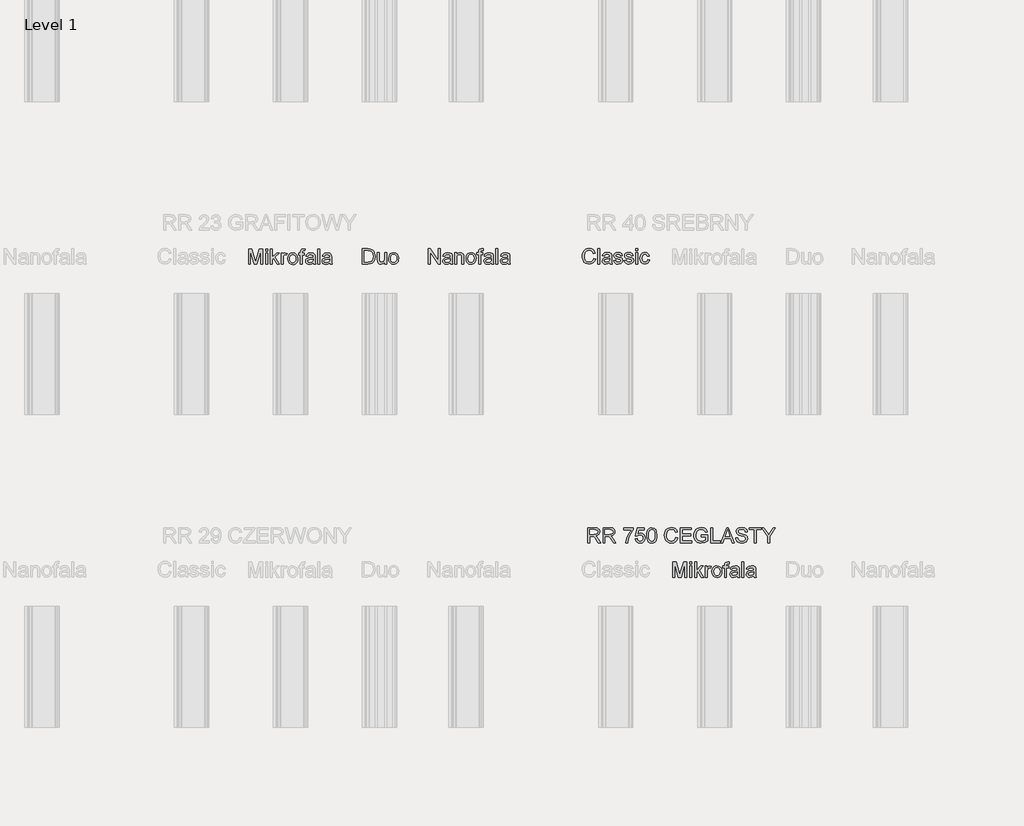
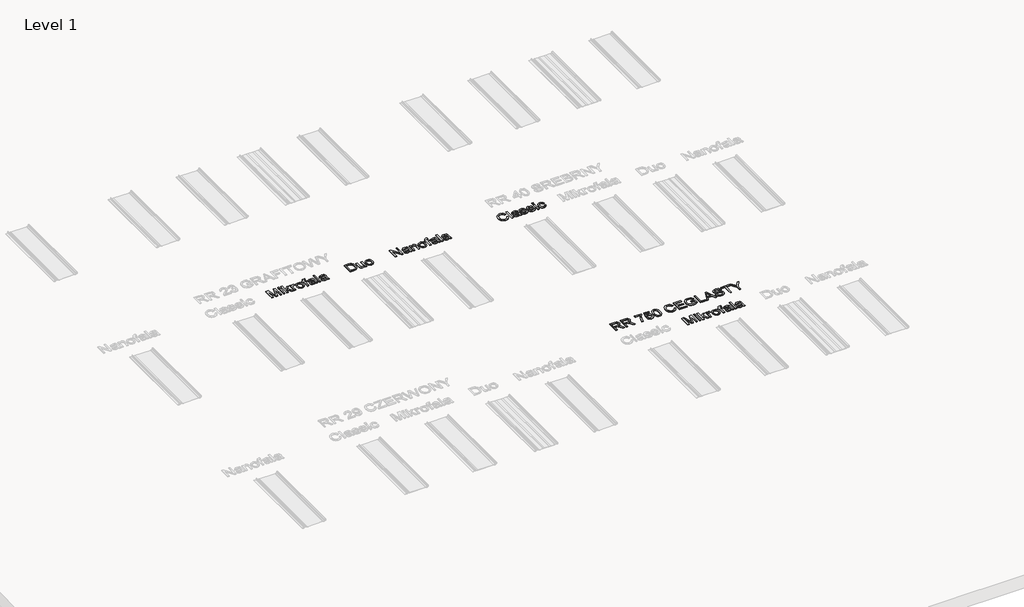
# One storey, part 15 of 24: 6 proxies.
"""IFC4 building model written with IfcOpenShell, lengths in millimetres."""

from ifc_helpers import new_model, si_unit, frame, origin, place, context, project, spatial, polyline, outline, extrude, element, save

model = new_model("IFC4")

# Units and contexts
model_context = context("Model", 3, world=origin())
ifc_project = project(units=[si_unit("LENGTHUNIT", "METRE", prefix="MILLI")], contexts=[model_context])

# Site, building, storey
site = spatial("IfcSite", under=ifc_project)
building = spatial("IfcBuilding", under=site)
storey = spatial("IfcBuildingStorey", under=building, Name="Level 1", Elevation=0.0)

# Proxies
placement = place(None, origin())
element("IfcBuildingElementProxy", 1, Name="150", ObjectType="150", at=placement, inside=storey, context=model_context, shape_type="SweptSolid", body=[
    extrude(outline(polyline([(-3695.6654959, -1975.281387), (-3695.6654959, -1824.5969218), (-3663.3654568, -1824.5969218), (-3632.4633692, -1930.8044538), (-3626.2093753, -1952.9877381), (-3619.4771347, -1928.9650438), (-3589.1636583, -1824.5969218), (-3556.7532546, -1824.5969218), (-3556.7532546, -1975.281387), (-3575.5888127, -1975.281387), (-3575.5888127, -1843.4324799), (-3613.44387, -1975.281387), (-3638.9380923, -1975.281387), (-3676.8299378, -1843.4324799), (-3676.8299378, -1975.281387), (-3695.6654959, -1975.281387)])), frame((0.0, 0.0, 600.0), z_axis=(0.0, 0.0, 1.0), x_axis=(1.0, 0.0, 0.0)), (0.0, 0.0, 1.0), 10.0),
    extrude(outline(polyline([(-3526.1454726, -1843.4324799), (-3526.1454726, -1824.5969218), (-3507.3099144, -1824.5969218), (-3507.3099144, -1843.4324799), (-3526.1454726, -1843.4324799)])), frame((0.0, 0.0, 600.0), z_axis=(0.0, 0.0, 1.0), x_axis=(1.0, 0.0, 0.0)), (0.0, 0.0, 1.0), 10.0),
    extrude(outline(polyline([(-3526.1454726, -1975.281387), (-3526.1454726, -1864.6224829), (-3507.3099144, -1864.6224829), (-3507.3099144, -1975.281387), (-3526.1454726, -1975.281387)])), frame((0.0, 0.0, 600.0), z_axis=(0.0, 0.0, 1.0), x_axis=(1.0, 0.0, 0.0)), (0.0, 0.0, 1.0), 10.0),
    extrude(outline(polyline([(-3479.0565772, -1975.281387), (-3479.0565772, -1824.5969218), (-3460.221019, -1824.5969218), (-3460.221019, -1905.5677489), (-3417.988166, -1864.6224829), (-3391.9421207, -1864.6224829), (-3434.7267968, -1906.0827837), (-3389.587676, -1975.281387), (-3411.5870193, -1975.281387), (-3448.228066, -1919.1793827), (-3460.221019, -1930.841242), (-3460.221019, -1975.281387), (-3479.0565772, -1975.281387)])), frame((0.0, 0.0, 600.0), z_axis=(0.0, 0.0, 1.0), x_axis=(1.0, 0.0, 0.0)), (0.0, 0.0, 1.0), 10.0),
    extrude(outline(polyline([(-3373.1065626, -1975.281387), (-3373.1065626, -1864.6224829), (-3356.6254492, -1864.6224829), (-3356.6254492, -1880.9932316), (-3344.9268017, -1865.9100698), (-3333.1545779, -1862.2680381), (-3314.2454433, -1868.0805736), (-3320.5362255, -1884.9663572), (-3333.7799773, -1881.1035962), (-3344.4301611, -1884.8192044), (-3351.2175839, -1895.1199003), (-3354.2710044, -1917.1192436), (-3354.2710044, -1975.281387), (-3373.1065626, -1975.281387)])), frame((0.0, 0.0, 600.0), z_axis=(0.0, 0.0, 1.0), x_axis=(1.0, 0.0, 0.0)), (0.0, 0.0, 1.0), 10.0),
    extrude(outline(polyline([(-3307.182109, -1919.9519349), (-3303.1078159, -1893.2712932), (-3290.8849367, -1874.5185085), (-3275.7833808, -1865.3306557), (-3257.7019807, -1862.2680381), (-3237.9145279, -1865.9974418), (-3222.1093977, -1877.185653), (-3211.748921, -1894.9497548), (-3208.2954287, -1918.4068306), (-3209.822139, -1937.4355268), (-3214.4022699, -1951.9208803), (-3221.902464, -1962.7688007), (-3232.1893643, -1970.8851972), (-3244.4076451, -1975.9481731), (-3257.7019807, -1977.6358318), (-3277.7285568, -1973.9202236), (-3293.5152929, -1962.7733992), (-3303.765405, -1944.6368168), (-3307.182109, -1919.9519349)]), holes=[polyline([(-3288.3465509, -1919.9151467), (-3286.1668501, -1936.9618787), (-3279.6277476, -1949.1065831), (-3269.7869042, -1956.376851), (-3257.7019807, -1958.8002736), (-3245.6722394, -1956.3630554), (-3235.8497902, -1949.0514008), (-3229.3106877, -1936.745748), (-3227.1309869, -1919.3265355), (-3229.3244833, -1902.7764443), (-3235.9049725, -1890.7972868), (-3245.7412173, -1883.5270189), (-3257.7019807, -1881.1035962), (-3269.7869042, -1883.5178218), (-3279.6277476, -1890.7604986), (-3286.1668501, -1902.8776118), (-3288.3465509, -1919.9151467)])]), frame((0.0, 0.0, 600.0), z_axis=(0.0, 0.0, 1.0), x_axis=(1.0, 0.0, 0.0)), (0.0, 0.0, 1.0), 10.0),
    extrude(outline(polyline([(-3182.3965363, -1975.281387), (-3182.3965363, -1883.458041), (-3198.8776497, -1883.458041), (-3198.8776497, -1864.6224829), (-3182.3965363, -1864.6224829), (-3182.3965363, -1853.4756584), (-3180.4099735, -1837.7670972), (-3170.7714652, -1826.5466964), (-3151.7887543, -1822.242477), (-3134.6086651, -1824.3026162), (-3137.3677801, -1841.960952), (-3148.2202989, -1841.0780352), (-3160.0844933, -1844.2050321), (-3163.5609781, -1855.8668914), (-3163.5609781, -1864.6224829), (-3142.3709752, -1864.6224829), (-3142.3709752, -1883.458041), (-3163.5609781, -1883.458041), (-3163.5609781, -1975.281387), (-3182.3965363, -1975.281387)])), frame((0.0, 0.0, 600.0), z_axis=(0.0, 0.0, 1.0), x_axis=(1.0, 0.0, 0.0)), (0.0, 0.0, 1.0), 10.0),
    extrude(outline(polyline([(-3055.2565187, -1961.1547184), (-3073.5218598, -1973.9202236), (-3093.7001872, -1977.6358318), (-3109.4409381, -1975.4009487), (-3121.0522136, -1968.6962993), (-3128.2121169, -1958.5151651), (-3130.5987514, -1945.8508274), (-3126.9935078, -1930.9516066), (-3117.5205464, -1920.1358759), (-3104.3319769, -1913.9554584), (-3088.0348045, -1911.1227671), (-3055.3668833, -1904.6480439), (-3055.2565187, -1900.4541892), (-3056.5533028, -1892.0480856), (-3060.4436549, -1886.5482498), (-3069.1440641, -1882.4647596), (-3081.2657758, -1881.1035962), (-3100.3220632, -1884.7272339), (-3109.4087484, -1897.5847096), (-3128.2443066, -1895.2302649), (-3120.0957204, -1876.8361651), (-3103.6881834, -1866.0572226), (-3078.8377546, -1862.2680381), (-3056.0106768, -1865.6157643), (-3043.1164129, -1874.0218678), (-3037.3406656, -1886.8057672), (-3036.4209606, -1903.2868806), (-3036.4209606, -1926.7209636), (-3035.4644674, -1959.4440671), (-3031.7120711, -1975.281387), (-3050.5476292, -1975.281387), (-3055.2565187, -1961.1547184)]), holes=[polyline([(-3055.2565187, -1923.4836021), (-3085.6435715, -1929.2593494), (-3101.8487734, -1932.31277), (-3109.1880192, -1937.2791769), (-3111.7631932, -1944.5264522), (-3106.1529928, -1954.7167835), (-3089.6902735, -1958.8002736), (-3070.6339861, -1954.2937192), (-3058.3467275, -1943.386018), (-3055.3668833, -1928.817891), (-3055.2565187, -1923.4836021)])]), frame((0.0, 0.0, 600.0), z_axis=(0.0, 0.0, 1.0), x_axis=(1.0, 0.0, 0.0)), (0.0, 0.0, 1.0), 10.0),
    extrude(outline(polyline([(-3010.5220681, -1975.281387), (-3010.5220681, -1824.5969218), (-2991.68651, -1824.5969218), (-2991.68651, -1975.281387), (-3010.5220681, -1975.281387)])), frame((0.0, 0.0, 600.0), z_axis=(0.0, 0.0, 1.0), x_axis=(1.0, 0.0, 0.0)), (0.0, 0.0, 1.0), 10.0),
    extrude(outline(polyline([(-2892.7998297, -1961.1547184), (-2911.0651707, -1973.9202236), (-2931.2434982, -1977.6358318), (-2946.984249, -1975.4009487), (-2958.5955245, -1968.6962993), (-2965.7554278, -1958.5151651), (-2968.1420623, -1945.8508274), (-2964.5368187, -1930.9516066), (-2955.0638574, -1920.1358759), (-2941.8752878, -1913.9554584), (-2925.5781154, -1911.1227671), (-2892.9101943, -1904.6480439), (-2892.7998297, -1900.4541892), (-2894.0966137, -1892.0480856), (-2897.9869658, -1886.5482498), (-2906.687375, -1882.4647596), (-2918.8090867, -1881.1035962), (-2937.8653741, -1884.7272339), (-2946.9520594, -1897.5847096), (-2965.7876175, -1895.2302649), (-2957.6390313, -1876.8361651), (-2941.2314943, -1866.0572226), (-2916.3810656, -1862.2680381), (-2893.5539878, -1865.6157643), (-2880.6597238, -1874.0218678), (-2874.8839765, -1886.8057672), (-2873.9642715, -1903.2868806), (-2873.9642715, -1926.7209636), (-2873.0077783, -1959.4440671), (-2869.255382, -1975.281387), (-2888.0909401, -1975.281387), (-2892.7998297, -1961.1547184)]), holes=[polyline([(-2892.7998297, -1923.4836021), (-2923.1868825, -1929.2593494), (-2939.3920844, -1932.31277), (-2946.7313302, -1937.2791769), (-2949.3065041, -1944.5264522), (-2943.6963037, -1954.7167835), (-2927.2335844, -1958.8002736), (-2908.1772971, -1954.2937192), (-2895.8900384, -1943.386018), (-2892.9101943, -1928.817891), (-2892.7998297, -1923.4836021)])]), frame((0.0, 0.0, 600.0), z_axis=(0.0, 0.0, 1.0), x_axis=(1.0, 0.0, 0.0)), (0.0, 0.0, 1.0), 10.0),
])
element("IfcBuildingElementProxy", 2, Name="150", ObjectType="150", at=placement, inside=storey, context=model_context, shape_type="SweptSolid", body=[
    extrude(outline(polyline([(-2567.5807075, -1972.1592468), (-2567.5807075, -1821.4747816), (-2515.5989816, -1821.4747816), (-2488.7068077, -1823.6452853), (-2466.5603116, -1834.4242278), (-2456.1400541, -1845.902146), (-2448.7180349, -1860.1759675), (-2444.2758598, -1876.9697805), (-2442.7951347, -1896.0076738), (-2446.8050485, -1926.4131207), (-2457.1057443, -1948.3572817), (-2470.864531, -1962.0240978), (-2488.8723546, -1969.5840728), (-2513.097384, -1972.1592468), (-2567.5807075, -1972.1592468)]), holes=[polyline([(-2548.7451493, -1953.3236886), (-2515.4150406, -1953.3236886), (-2491.1716171, -1950.6013619), (-2477.1921013, -1942.9126282), (-2465.7325771, -1924.2058287), (-2461.6306929, -1895.7133682), (-2463.6402483, -1875.1855529), (-2469.6689145, -1860.0288147), (-2478.5762573, -1849.6177542), (-2489.2218425, -1843.3269721), (-2515.9300754, -1840.3103397), (-2548.7451493, -1840.3103397), (-2548.7451493, -1953.3236886)])]), frame((0.0, 0.0, 600.0), z_axis=(0.0, 0.0, 1.0), x_axis=(1.0, 0.0, 0.0)), (0.0, 0.0, 1.0), 10.0),
    extrude(outline(polyline([(-2348.617344, -1972.1592468), (-2348.617344, -1953.1397476), (-2363.369412, -1969.1702056), (-2382.6096403, -1974.5136916), (-2400.3231584, -1970.7612952), (-2412.5368406, -1961.3435161), (-2418.1470411, -1947.4743649), (-2419.250687, -1929.9631819), (-2419.250687, -1861.5003426), (-2400.4151289, -1861.5003426), (-2400.4151289, -1921.0972259), (-2399.2746947, -1940.300666), (-2391.8250843, -1951.5762492), (-2377.7903862, -1955.6781334), (-2362.0634309, -1951.4842787), (-2351.6707645, -1940.0615427), (-2348.617344, -1919.0738749), (-2348.617344, -1861.5003426), (-2329.7817858, -1861.5003426), (-2329.7817858, -1972.1592468), (-2348.617344, -1972.1592468)])), frame((0.0, 0.0, 600.0), z_axis=(0.0, 0.0, 1.0), x_axis=(1.0, 0.0, 0.0)), (0.0, 0.0, 1.0), 10.0),
    extrude(outline(polyline([(-2308.5917829, -1916.8297947), (-2304.5174898, -1890.149153), (-2292.2946105, -1871.3963683), (-2277.1930546, -1862.2085155), (-2259.1116545, -1859.1458979), (-2239.3242017, -1862.8753016), (-2223.5190715, -1874.0635128), (-2213.1585948, -1891.8276146), (-2209.7051026, -1915.2846903), (-2211.2318129, -1934.3133865), (-2215.8119437, -1948.7987401), (-2223.3121379, -1959.6466604), (-2233.5990382, -1967.7630569), (-2245.8173189, -1972.8260329), (-2259.1116545, -1974.5136916), (-2279.1382307, -1970.7980834), (-2294.9249668, -1959.651259), (-2305.1750789, -1941.5146766), (-2308.5917829, -1916.8297947)]), holes=[polyline([(-2289.7562247, -1916.7930065), (-2287.5765239, -1933.8397385), (-2281.0374215, -1945.9844428), (-2271.1965781, -1953.2547108), (-2259.1116545, -1955.6781334), (-2247.0819133, -1953.2409152), (-2237.259464, -1945.9292605), (-2230.7203616, -1933.6236078), (-2228.5406607, -1916.2043953), (-2230.7341571, -1899.6543041), (-2237.3146463, -1887.6751466), (-2247.1508912, -1880.4048787), (-2259.1116545, -1877.981456), (-2271.1965781, -1880.3956816), (-2281.0374215, -1887.6383584), (-2287.5765239, -1899.7554716), (-2289.7562247, -1916.7930065)])]), frame((0.0, 0.0, 600.0), z_axis=(0.0, 0.0, 1.0), x_axis=(1.0, 0.0, 0.0)), (0.0, 0.0, 1.0), 10.0),
])
element("IfcBuildingElementProxy", 3, Name="150", ObjectType="150", at=placement, inside=storey, context=model_context, shape_type="SweptSolid", body=[
    extrude(outline(polyline([(-279.0085992, -1917.1818641), (-260.1730411, -1922.0379064), (-268.8642532, -1943.986666), (-282.5034782, -1960.0217224), (-300.4193314, -1969.8303761), (-321.9404281, -1973.0999274), (-343.7880201, -1970.6259209), (-361.1382547, -1963.2039017), (-374.4371888, -1951.091387), (-384.1308794, -1934.5458943), (-390.049181, -1915.0941338), (-392.0219482, -1894.2628158), (-389.7916636, -1872.2910636), (-383.1008098, -1853.3175497), (-372.2988747, -1837.9446809), (-357.7353462, -1826.7748638), (-340.4632865, -1819.9736454), (-321.5357579, -1817.7065726), (-300.8837824, -1820.6404315), (-283.8094593, -1829.4420082), (-270.8462175, -1843.5686769), (-262.5274859, -1862.4778114), (-281.363044, -1866.9659718), (-287.8929494, -1853.2301778), (-296.8140878, -1843.8078002), (-308.2368238, -1838.3585481), (-322.2715219, -1836.5421308), (-338.4491326, -1838.5562847), (-351.7388697, -1844.5987464), (-361.8234349, -1854.0349196), (-368.38553, -1866.2302078), (-373.18639, -1894.2260276), (-371.7654458, -1911.626846), (-367.5026132, -1926.6732196), (-360.2369438, -1938.7903328), (-349.8074892, -1947.40337), (-337.3040999, -1952.5491194), (-323.8166263, -1954.2643692), (-308.0942695, -1951.9283185), (-294.9930719, -1944.9201665), (-285.1016448, -1933.3134896), (-279.0085992, -1917.1818641)])), frame((0.0, 0.0, 600.0), z_axis=(0.0, 0.0, 1.0), x_axis=(1.0, 0.0, 0.0)), (0.0, 0.0, 1.0), 10.0),
    extrude(outline(polyline([(-236.6285934, -1970.7454826), (-236.6285934, -1820.0610174), (-217.7930352, -1820.0610174), (-217.7930352, -1970.7454826), (-236.6285934, -1970.7454826)])), frame((0.0, 0.0, 600.0), z_axis=(0.0, 0.0, 1.0), x_axis=(1.0, 0.0, 0.0)), (0.0, 0.0, 1.0), 10.0),
    extrude(outline(polyline([(-118.9063549, -1956.618814), (-137.171696, -1969.3843192), (-157.3500234, -1973.0999274), (-173.0907743, -1970.8650442), (-184.7020498, -1964.1603949), (-191.8619531, -1953.9792607), (-194.2485875, -1941.314923), (-190.643344, -1926.4157022), (-181.1703826, -1915.5999715), (-167.9818131, -1909.419554), (-151.6846407, -1906.5868626), (-119.0167195, -1900.1121395), (-118.9063549, -1895.9182848), (-120.203139, -1887.5121812), (-124.0934911, -1882.0123454), (-132.7939003, -1877.9288552), (-144.915612, -1876.5676918), (-163.9718993, -1880.1913295), (-173.0585846, -1893.0488052), (-191.8941428, -1890.6943604), (-183.7455566, -1872.3002607), (-167.3380196, -1861.5213182), (-142.4875908, -1857.7321337), (-119.660513, -1861.0798598), (-106.7662491, -1869.4859634), (-100.9905018, -1882.2698628), (-100.0707968, -1898.7509761), (-100.0707968, -1922.1850592), (-99.1143036, -1954.9081627), (-95.3619072, -1970.7454826), (-114.1974654, -1970.7454826), (-118.9063549, -1956.618814)]), holes=[polyline([(-118.9063549, -1918.9476977), (-149.2934077, -1924.723445), (-165.4986096, -1927.7768656), (-172.8378554, -1932.7432725), (-175.4130294, -1939.9905478), (-169.802829, -1950.1808791), (-153.3401097, -1954.2643692), (-134.2838223, -1949.7578148), (-121.9965637, -1938.8501136), (-119.0167195, -1924.2819866), (-118.9063549, -1918.9476977)])]), frame((0.0, 0.0, 600.0), z_axis=(0.0, 0.0, 1.0), x_axis=(1.0, 0.0, 0.0)), (0.0, 0.0, 1.0), 10.0),
    extrude(outline(polyline([(-81.2352386, -1937.7832558), (-62.3996805, -1935.4288111), (-59.4290334, -1943.4854268), (-53.6808772, -1949.4083269), (-33.7048849, -1954.2643692), (-14.5014447, -1949.8129971), (-8.2474508, -1939.3651484), (-9.8201463, -1934.5642884), (-14.5382329, -1930.9038625), (-33.9256141, -1925.5327854), (-62.2893159, -1916.3173414), (-74.668545, -1905.5567931), (-78.8807939, -1890.3632666), (-75.4962795, -1876.3285685), (-66.2624414, -1865.6048084), (-54.2878825, -1860.0313961), (-38.0826806, -1857.7321337), (-15.1636323, -1861.4293477), (-0.5955053, -1871.435738), (5.8792178, -1888.3399157), (-12.9563403, -1890.6943604), (-20.0380687, -1880.3016941), (-36.6111526, -1876.5676918), (-54.6373704, -1880.1361472), (-60.0452357, -1888.4502803), (-57.8011555, -1893.931722), (-50.7746094, -1898.0887885), (-34.5510134, -1902.0987023), (-6.9046815, -1910.9646584), (5.9344001, -1921.0078368), (10.5881074, -1937.3785856), (5.1250597, -1955.4048034), (-10.6386838, -1968.4830083), (-33.9624023, -1973.0999274), (-52.9543103, -1970.8742413), (-66.8142644, -1964.1971831), (-76.0664966, -1953.1423291), (-81.2352386, -1937.7832558)])), frame((0.0, 0.0, 600.0), z_axis=(0.0, 0.0, 1.0), x_axis=(1.0, 0.0, 0.0)), (0.0, 0.0, 1.0), 10.0),
    extrude(outline(polyline([(24.714776, -1937.7832558), (43.5503341, -1935.4288111), (46.5209812, -1943.4854268), (52.2691374, -1949.4083269), (72.2451298, -1954.2643692), (91.4485699, -1949.8129971), (97.7025638, -1939.3651484), (96.1298683, -1934.5642884), (91.4117817, -1930.9038625), (72.0244006, -1925.5327854), (43.6606987, -1916.3173414), (31.2814696, -1905.5567931), (27.0692207, -1890.3632666), (30.4537351, -1876.3285685), (39.6875732, -1865.6048084), (51.6621321, -1860.0313961), (67.867334, -1857.7321337), (90.7863823, -1861.4293477), (105.3545093, -1871.435738), (111.8292324, -1888.3399157), (92.9936743, -1890.6943604), (85.9119459, -1880.3016941), (69.338862, -1876.5676918), (51.3126442, -1880.1361472), (45.9047789, -1888.4502803), (48.1488591, -1893.931722), (55.1754052, -1898.0887885), (71.3990012, -1902.0987023), (99.0453331, -1910.9646584), (111.8844147, -1921.0078368), (116.538122, -1937.3785856), (111.0750743, -1955.4048034), (95.3113309, -1968.4830083), (71.9876124, -1973.0999274), (52.9957044, -1970.8742413), (39.1357502, -1964.1971831), (29.883518, -1953.1423291), (24.714776, -1937.7832558)])), frame((0.0, 0.0, 600.0), z_axis=(0.0, 0.0, 1.0), x_axis=(1.0, 0.0, 0.0)), (0.0, 0.0, 1.0), 10.0),
    extrude(outline(polyline([(137.7281249, -1838.8965755), (137.7281249, -1820.0610174), (156.5636831, -1820.0610174), (156.5636831, -1838.8965755), (137.7281249, -1838.8965755)])), frame((0.0, 0.0, 600.0), z_axis=(0.0, 0.0, 1.0), x_axis=(1.0, 0.0, 0.0)), (0.0, 0.0, 1.0), 10.0),
    extrude(outline(polyline([(137.7281249, -1970.7454826), (137.7281249, -1860.0865784), (156.5636831, -1860.0865784), (156.5636831, -1970.7454826), (137.7281249, -1970.7454826)])), frame((0.0, 0.0, 600.0), z_axis=(0.0, 0.0, 1.0), x_axis=(1.0, 0.0, 0.0)), (0.0, 0.0, 1.0), 10.0),
    extrude(outline(polyline([(255.4503634, -1930.7199215), (274.2859215, -1933.0743663), (269.034406, -1949.8267926), (259.1659715, -1962.4865318), (245.60952, -1970.4465785), (229.2939535, -1973.0999274), (209.2581803, -1969.3981148), (193.5910059, -1958.2926771), (183.4788495, -1940.2710578), (180.1081307, -1915.8207007), (181.547469, -1899.0590773), (185.865484, -1884.532337), (193.1311534, -1872.8014999), (203.4134551, -1864.427586), (215.7145094, -1859.4059968), (229.0364361, -1857.7321337), (244.9519309, -1860.0313961), (257.6760494, -1866.9291836), (266.8041214, -1878.0576139), (271.9314767, -1893.0488052), (253.0959186, -1895.40325), (244.3587212, -1881.2949755), (229.1835889, -1876.5676918), (217.0112934, -1878.8945454), (207.3497925, -1885.8751063), (201.0452148, -1897.8864535), (198.9436889, -1915.3056659), (200.9992295, -1932.9594032), (207.1658515, -1945.012137), (216.6526084, -1951.9513112), (228.6685541, -1954.2643692), (238.4220255, -1952.8204324), (246.4188604, -1948.4886219), (252.2359944, -1941.1585731), (255.4503634, -1930.7199215)])), frame((0.0, 0.0, 600.0), z_axis=(0.0, 0.0, 1.0), x_axis=(1.0, 0.0, 0.0)), (0.0, 0.0, 1.0), 10.0),
])
element("IfcBuildingElementProxy", 4, Name="150", ObjectType="150", at=placement, inside=storey, context=model_context, shape_type="SweptSolid", body=[
    extrude(outline(polyline([(504.3345041, -5075.281387), (504.3345041, -4924.5969218), (536.6345432, -4924.5969218), (567.5366308, -5030.8044538), (573.7906247, -5052.9877381), (580.5228653, -5028.9650438), (610.8363417, -4924.5969218), (643.2467454, -4924.5969218), (643.2467454, -5075.281387), (624.4111873, -5075.281387), (624.4111873, -4943.4324799), (586.55613, -5075.281387), (561.0619077, -5075.281387), (523.1700622, -4943.4324799), (523.1700622, -5075.281387), (504.3345041, -5075.281387)])), frame((0.0, 0.0, 600.0), z_axis=(0.0, 0.0, 1.0), x_axis=(1.0, 0.0, 0.0)), (0.0, 0.0, 1.0), 10.0),
    extrude(outline(polyline([(673.8545274, -4943.4324799), (673.8545274, -4924.5969218), (692.6900856, -4924.5969218), (692.6900856, -4943.4324799), (673.8545274, -4943.4324799)])), frame((0.0, 0.0, 600.0), z_axis=(0.0, 0.0, 1.0), x_axis=(1.0, 0.0, 0.0)), (0.0, 0.0, 1.0), 10.0),
    extrude(outline(polyline([(673.8545274, -5075.281387), (673.8545274, -4964.6224829), (692.6900856, -4964.6224829), (692.6900856, -5075.281387), (673.8545274, -5075.281387)])), frame((0.0, 0.0, 600.0), z_axis=(0.0, 0.0, 1.0), x_axis=(1.0, 0.0, 0.0)), (0.0, 0.0, 1.0), 10.0),
    extrude(outline(polyline([(720.9434228, -5075.281387), (720.9434228, -4924.5969218), (739.778981, -4924.5969218), (739.778981, -5005.5677489), (782.011834, -4964.6224829), (808.0578793, -4964.6224829), (765.2732032, -5006.0827837), (810.412324, -5075.281387), (788.4129807, -5075.281387), (751.771934, -5019.1793827), (739.778981, -5030.841242), (739.778981, -5075.281387), (720.9434228, -5075.281387)])), frame((0.0, 0.0, 600.0), z_axis=(0.0, 0.0, 1.0), x_axis=(1.0, 0.0, 0.0)), (0.0, 0.0, 1.0), 10.0),
    extrude(outline(polyline([(826.8934374, -5075.281387), (826.8934374, -4964.6224829), (843.3745508, -4964.6224829), (843.3745508, -4980.9932316), (855.0731983, -4965.9100698), (866.8454221, -4962.2680381), (885.7545567, -4968.0805736), (879.4637745, -4984.9663572), (866.2200227, -4981.1035962), (855.5698389, -4984.8192044), (848.7824161, -4995.1199003), (845.7289956, -5017.1192436), (845.7289956, -5075.281387), (826.8934374, -5075.281387)])), frame((0.0, 0.0, 600.0), z_axis=(0.0, 0.0, 1.0), x_axis=(1.0, 0.0, 0.0)), (0.0, 0.0, 1.0), 10.0),
    extrude(outline(polyline([(892.817891, -5019.9519349), (896.8921841, -4993.2712932), (909.1150633, -4974.5185085), (924.2166192, -4965.3306557), (942.2980193, -4962.2680381), (962.0854721, -4965.9974418), (977.8906023, -4977.185653), (988.251079, -4994.9497548), (991.7045713, -5018.4068306), (990.177861, -5037.4355268), (985.5977301, -5051.9208803), (978.097536, -5062.7688007), (967.8106357, -5070.8851972), (955.5923549, -5075.9481731), (942.2980193, -5077.6358318), (922.2714432, -5073.9202236), (906.4847071, -5062.7733992), (896.234595, -5044.6368168), (892.817891, -5019.9519349)]), holes=[polyline([(911.6534491, -5019.9151467), (913.8331499, -5036.9618787), (920.3722524, -5049.1065831), (930.2130958, -5056.376851), (942.2980193, -5058.8002736), (954.3277606, -5056.3630554), (964.1502098, -5049.0514008), (970.6893123, -5036.745748), (972.8690131, -5019.3265355), (970.6755167, -5002.7764443), (964.0950275, -4990.7972868), (954.2587827, -4983.5270189), (942.2980193, -4981.1035962), (930.2130958, -4983.5178218), (920.3722524, -4990.7604986), (913.8331499, -5002.8776118), (911.6534491, -5019.9151467)])]), frame((0.0, 0.0, 600.0), z_axis=(0.0, 0.0, 1.0), x_axis=(1.0, 0.0, 0.0)), (0.0, 0.0, 1.0), 10.0),
    extrude(outline(polyline([(1017.6034637, -5075.281387), (1017.6034637, -4983.458041), (1001.1223503, -4983.458041), (1001.1223503, -4964.6224829), (1017.6034637, -4964.6224829), (1017.6034637, -4953.4756584), (1019.5900265, -4937.7670972), (1029.2285348, -4926.5466964), (1048.2112457, -4922.242477), (1065.3913349, -4924.3026162), (1062.6322199, -4941.960952), (1051.7797011, -4941.0780352), (1039.9155067, -4944.2050321), (1036.4390219, -4955.8668914), (1036.4390219, -4964.6224829), (1057.6290248, -4964.6224829), (1057.6290248, -4983.458041), (1036.4390219, -4983.458041), (1036.4390219, -5075.281387), (1017.6034637, -5075.281387)])), frame((0.0, 0.0, 600.0), z_axis=(0.0, 0.0, 1.0), x_axis=(1.0, 0.0, 0.0)), (0.0, 0.0, 1.0), 10.0),
    extrude(outline(polyline([(1144.7434813, -5061.1547184), (1126.4781402, -5073.9202236), (1106.2998128, -5077.6358318), (1090.5590619, -5075.4009487), (1078.9477864, -5068.6962993), (1071.7878831, -5058.5151651), (1069.4012486, -5045.8508274), (1073.0064922, -5030.9516066), (1082.4794536, -5020.1358759), (1095.6680231, -5013.9554584), (1111.9651955, -5011.1227671), (1144.6331167, -5004.6480439), (1144.7434813, -5000.4541892), (1143.4466972, -4992.0480856), (1139.5563451, -4986.5482498), (1130.8559359, -4982.4647596), (1118.7342242, -4981.1035962), (1099.6779368, -4984.7272339), (1090.5912516, -4997.5847096), (1071.7556934, -4995.2302649), (1079.9042796, -4976.8361651), (1096.3118166, -4966.0572226), (1121.1622454, -4962.2680381), (1143.9893232, -4965.6157643), (1156.8835871, -4974.0218678), (1162.6593344, -4986.8057672), (1163.5790394, -5003.2868806), (1163.5790394, -5026.7209636), (1164.5355326, -5059.4440671), (1168.2879289, -5075.281387), (1149.4523708, -5075.281387), (1144.7434813, -5061.1547184)]), holes=[polyline([(1144.7434813, -5023.4836021), (1114.3564285, -5029.2593494), (1098.1512266, -5032.31277), (1090.8119808, -5037.2791769), (1088.2368068, -5044.5264522), (1093.8470072, -5054.7167835), (1110.3097265, -5058.8002736), (1129.3660139, -5054.2937192), (1141.6532725, -5043.386018), (1144.6331167, -5028.817891), (1144.7434813, -5023.4836021)])]), frame((0.0, 0.0, 600.0), z_axis=(0.0, 0.0, 1.0), x_axis=(1.0, 0.0, 0.0)), (0.0, 0.0, 1.0), 10.0),
    extrude(outline(polyline([(1189.4779319, -5075.281387), (1189.4779319, -4924.5969218), (1208.31349, -4924.5969218), (1208.31349, -5075.281387), (1189.4779319, -5075.281387)])), frame((0.0, 0.0, 600.0), z_axis=(0.0, 0.0, 1.0), x_axis=(1.0, 0.0, 0.0)), (0.0, 0.0, 1.0), 10.0),
    extrude(outline(polyline([(1307.2001703, -5061.1547184), (1288.9348293, -5073.9202236), (1268.7565018, -5077.6358318), (1253.015751, -5075.4009487), (1241.4044755, -5068.6962993), (1234.2445722, -5058.5151651), (1231.8579377, -5045.8508274), (1235.4631813, -5030.9516066), (1244.9361426, -5020.1358759), (1258.1247122, -5013.9554584), (1274.4218846, -5011.1227671), (1307.0898057, -5004.6480439), (1307.2001703, -5000.4541892), (1305.9033863, -4992.0480856), (1302.0130342, -4986.5482498), (1293.312625, -4982.4647596), (1281.1909133, -4981.1035962), (1262.1346259, -4984.7272339), (1253.0479406, -4997.5847096), (1234.2123825, -4995.2302649), (1242.3609687, -4976.8361651), (1258.7685057, -4966.0572226), (1283.6189344, -4962.2680381), (1306.4460122, -4965.6157643), (1319.3402762, -4974.0218678), (1325.1160235, -4986.8057672), (1326.0357285, -5003.2868806), (1326.0357285, -5026.7209636), (1326.9922217, -5059.4440671), (1330.744618, -5075.281387), (1311.9090599, -5075.281387), (1307.2001703, -5061.1547184)]), holes=[polyline([(1307.2001703, -5023.4836021), (1276.8131175, -5029.2593494), (1260.6079156, -5032.31277), (1253.2686698, -5037.2791769), (1250.6934959, -5044.5264522), (1256.3036963, -5054.7167835), (1272.7664156, -5058.8002736), (1291.8227029, -5054.2937192), (1304.1099616, -5043.386018), (1307.0898057, -5028.817891), (1307.2001703, -5023.4836021)])]), frame((0.0, 0.0, 600.0), z_axis=(0.0, 0.0, 1.0), x_axis=(1.0, 0.0, 0.0)), (0.0, 0.0, 1.0), 10.0),
])
element("IfcBuildingElementProxy", 5, Name="150", ObjectType="150", at=placement, inside=storey, context=model_context, shape_type="SweptSolid", body=[
    extrude(outline(polyline([(-1916.7806572, -1972.1592468), (-1916.7806572, -1821.4747816), (-1896.6207239, -1821.4747816), (-1817.8939769, -1940.852489), (-1817.8939769, -1821.4747816), (-1799.0584188, -1821.4747816), (-1799.0584188, -1972.1592468), (-1819.2183521, -1972.1592468), (-1897.9450991, -1852.7447512), (-1897.9450991, -1972.1592468), (-1916.7806572, -1972.1592468)])), frame((0.0, 0.0, 600.0), z_axis=(0.0, 0.0, 1.0), x_axis=(1.0, 0.0, 0.0)), (0.0, 0.0, 1.0), 10.0),
    extrude(outline(polyline([(-1697.8172937, -1958.0325782), (-1716.0826347, -1970.7980834), (-1736.2609622, -1974.5136916), (-1752.001713, -1972.2788084), (-1763.6129885, -1965.5741591), (-1770.7728919, -1955.3930249), (-1773.1595263, -1942.7286872), (-1769.5542827, -1927.8294664), (-1760.0813214, -1917.0137357), (-1746.8927518, -1910.8333182), (-1730.5955795, -1908.0006268), (-1697.9276583, -1901.5259037), (-1697.8172937, -1897.332049), (-1699.1140777, -1888.9259454), (-1703.0044298, -1883.4261096), (-1711.704839, -1879.3426194), (-1723.8265507, -1877.981456), (-1742.8828381, -1881.6050937), (-1751.9695234, -1894.4625694), (-1770.8050815, -1892.1081246), (-1762.6564953, -1873.7140249), (-1746.2489583, -1862.9350824), (-1721.3985296, -1859.1458979), (-1698.5714518, -1862.493624), (-1685.6771878, -1870.8997276), (-1679.9014405, -1883.683627), (-1678.9817355, -1900.1647403), (-1678.9817355, -1923.5988234), (-1678.0252423, -1956.3219269), (-1674.272846, -1972.1592468), (-1693.1084041, -1972.1592468), (-1697.8172937, -1958.0325782)]), holes=[polyline([(-1697.8172937, -1920.3614619), (-1728.2043465, -1926.1372092), (-1744.4095484, -1929.1906298), (-1751.7487942, -1934.1570367), (-1754.3239681, -1941.404312), (-1748.7137677, -1951.5946433), (-1732.2510484, -1955.6781334), (-1713.1947611, -1951.171579), (-1700.9075024, -1940.2638778), (-1697.9276583, -1925.6957508), (-1697.8172937, -1920.3614619)])]), frame((0.0, 0.0, 600.0), z_axis=(0.0, 0.0, 1.0), x_axis=(1.0, 0.0, 0.0)), (0.0, 0.0, 1.0), 10.0),
    extrude(outline(polyline([(-1653.0828431, -1972.1592468), (-1653.0828431, -1861.5003426), (-1634.2472849, -1861.5003426), (-1634.2472849, -1876.9513864), (-1619.8447048, -1863.59727), (-1600.1814122, -1859.1458979), (-1582.3943177, -1862.7327473), (-1570.2542119, -1872.1505264), (-1564.6072232, -1886.0012835), (-1563.6139418, -1904.2114423), (-1563.6139418, -1972.1592468), (-1582.4495, -1972.1592468), (-1582.4495, -1906.749828), (-1584.6200038, -1890.0847737), (-1592.2903434, -1881.2739999), (-1605.2213955, -1877.981456), (-1616.2532568, -1879.8300631), (-1625.6572403, -1885.3758841), (-1632.0997738, -1896.0904472), (-1634.2472849, -1913.4452804), (-1634.2472849, -1972.1592468), (-1653.0828431, -1972.1592468)])), frame((0.0, 0.0, 600.0), z_axis=(0.0, 0.0, 1.0), x_axis=(1.0, 0.0, 0.0)), (0.0, 0.0, 1.0), 10.0),
    extrude(outline(polyline([(-1542.4239389, -1916.8297947), (-1538.3496458, -1890.149153), (-1526.1267665, -1871.3963683), (-1511.0252106, -1862.2085155), (-1492.9438106, -1859.1458979), (-1473.1563578, -1862.8753016), (-1457.3512275, -1874.0635128), (-1446.9907508, -1891.8276146), (-1443.5372586, -1915.2846903), (-1445.0639689, -1934.3133865), (-1449.6440997, -1948.7987401), (-1457.1442939, -1959.6466604), (-1467.4311942, -1967.7630569), (-1479.649475, -1972.8260329), (-1492.9438106, -1974.5136916), (-1512.9703867, -1970.7980834), (-1528.7571228, -1959.651259), (-1539.0072349, -1941.5146766), (-1542.4239389, -1916.8297947)]), holes=[polyline([(-1523.5883808, -1916.7930065), (-1521.4086799, -1933.8397385), (-1514.8695775, -1945.9844428), (-1505.0287341, -1953.2547108), (-1492.9438106, -1955.6781334), (-1480.9140693, -1953.2409152), (-1471.0916201, -1945.9292605), (-1464.5525176, -1933.6236078), (-1462.3728168, -1916.2043953), (-1464.5663132, -1899.6543041), (-1471.1468024, -1887.6751466), (-1480.9830472, -1880.4048787), (-1492.9438106, -1877.981456), (-1505.0287341, -1880.3956816), (-1514.8695775, -1887.6383584), (-1521.4086799, -1899.7554716), (-1523.5883808, -1916.7930065)])]), frame((0.0, 0.0, 600.0), z_axis=(0.0, 0.0, 1.0), x_axis=(1.0, 0.0, 0.0)), (0.0, 0.0, 1.0), 10.0),
    extrude(outline(polyline([(-1417.6383662, -1972.1592468), (-1417.6383662, -1880.3359008), (-1434.1194795, -1880.3359008), (-1434.1194795, -1861.5003426), (-1417.6383662, -1861.5003426), (-1417.6383662, -1850.3535182), (-1415.6518034, -1834.644957), (-1406.0132951, -1823.4245561), (-1387.0305842, -1819.1203368), (-1369.850495, -1821.180476), (-1372.6096099, -1838.8388117), (-1383.4621288, -1837.955895), (-1395.3263231, -1841.0828919), (-1398.802808, -1852.7447512), (-1398.802808, -1861.5003426), (-1377.6128051, -1861.5003426), (-1377.6128051, -1880.3359008), (-1398.802808, -1880.3359008), (-1398.802808, -1972.1592468), (-1417.6383662, -1972.1592468)])), frame((0.0, 0.0, 600.0), z_axis=(0.0, 0.0, 1.0), x_axis=(1.0, 0.0, 0.0)), (0.0, 0.0, 1.0), 10.0),
    extrude(outline(polyline([(-1290.4983486, -1958.0325782), (-1308.7636897, -1970.7980834), (-1328.9420171, -1974.5136916), (-1344.682768, -1972.2788084), (-1356.2940435, -1965.5741591), (-1363.4539468, -1955.3930249), (-1365.8405812, -1942.7286872), (-1362.2353377, -1927.8294664), (-1352.7623763, -1917.0137357), (-1339.5738068, -1910.8333182), (-1323.2766344, -1908.0006268), (-1290.6087132, -1901.5259037), (-1290.4983486, -1897.332049), (-1291.7951327, -1888.9259454), (-1295.6854848, -1883.4261096), (-1304.3858939, -1879.3426194), (-1316.5076057, -1877.981456), (-1335.563893, -1881.6050937), (-1344.6505783, -1894.4625694), (-1363.4861365, -1892.1081246), (-1355.3375503, -1873.7140249), (-1338.9300133, -1862.9350824), (-1314.0795845, -1859.1458979), (-1291.2525067, -1862.493624), (-1278.3582428, -1870.8997276), (-1272.5824955, -1883.683627), (-1271.6627905, -1900.1647403), (-1271.6627905, -1923.5988234), (-1270.7062973, -1956.3219269), (-1266.9539009, -1972.1592468), (-1285.7894591, -1972.1592468), (-1290.4983486, -1958.0325782)]), holes=[polyline([(-1290.4983486, -1920.3614619), (-1320.8854014, -1926.1372092), (-1337.0906033, -1929.1906298), (-1344.4298491, -1934.1570367), (-1347.0050231, -1941.404312), (-1341.3948227, -1951.5946433), (-1324.9321034, -1955.6781334), (-1305.875816, -1951.171579), (-1293.5885574, -1940.2638778), (-1290.6087132, -1925.6957508), (-1290.4983486, -1920.3614619)])]), frame((0.0, 0.0, 600.0), z_axis=(0.0, 0.0, 1.0), x_axis=(1.0, 0.0, 0.0)), (0.0, 0.0, 1.0), 10.0),
    extrude(outline(polyline([(-1245.763898, -1972.1592468), (-1245.763898, -1821.4747816), (-1226.9283399, -1821.4747816), (-1226.9283399, -1972.1592468), (-1245.763898, -1972.1592468)])), frame((0.0, 0.0, 600.0), z_axis=(0.0, 0.0, 1.0), x_axis=(1.0, 0.0, 0.0)), (0.0, 0.0, 1.0), 10.0),
    extrude(outline(polyline([(-1128.0416596, -1958.0325782), (-1146.3070006, -1970.7980834), (-1166.485328, -1974.5136916), (-1182.2260789, -1972.2788084), (-1193.8373544, -1965.5741591), (-1200.9972577, -1955.3930249), (-1203.3838922, -1942.7286872), (-1199.7786486, -1927.8294664), (-1190.3056872, -1917.0137357), (-1177.1171177, -1910.8333182), (-1160.8199453, -1908.0006268), (-1128.1520242, -1901.5259037), (-1128.0416596, -1897.332049), (-1129.3384436, -1888.9259454), (-1133.2287957, -1883.4261096), (-1141.9292049, -1879.3426194), (-1154.0509166, -1877.981456), (-1173.107204, -1881.6050937), (-1182.1938892, -1894.4625694), (-1201.0294474, -1892.1081246), (-1192.8808612, -1873.7140249), (-1176.4733242, -1862.9350824), (-1151.6228954, -1859.1458979), (-1128.7958176, -1862.493624), (-1115.9015537, -1870.8997276), (-1110.1258064, -1883.683627), (-1109.2061014, -1900.1647403), (-1109.2061014, -1923.5988234), (-1108.2496082, -1956.3219269), (-1104.4972119, -1972.1592468), (-1123.33277, -1972.1592468), (-1128.0416596, -1958.0325782)]), holes=[polyline([(-1128.0416596, -1920.3614619), (-1158.4287124, -1926.1372092), (-1174.6339142, -1929.1906298), (-1181.97316, -1934.1570367), (-1184.548334, -1941.404312), (-1178.9381336, -1951.5946433), (-1162.4754143, -1955.6781334), (-1143.419127, -1951.171579), (-1131.1318683, -1940.2638778), (-1128.1520242, -1925.6957508), (-1128.0416596, -1920.3614619)])]), frame((0.0, 0.0, 600.0), z_axis=(0.0, 0.0, 1.0), x_axis=(1.0, 0.0, 0.0)), (0.0, 0.0, 1.0), 10.0),
])
element("IfcBuildingElementProxy", 6, Name="150 Blue", ObjectType="150 Blue", at=placement, inside=storey, context=model_context, shape_type="SweptSolid", body=[
    extrude(outline(polyline([(-336.4118342, -4735.6514112), (-336.4118342, -4584.966946), (-271.4806621, -4584.966946), (-241.3327325, -4589.032042), (-232.0529092, -4594.6606365), (-224.8516192, -4603.416228), (-220.2301016, -4614.2733454), (-218.6895957, -4626.2065176), (-221.2417771, -4641.0505561), (-228.8983211, -4653.3562089), (-241.8891541, -4662.3785148), (-260.4442022, -4667.3725129), (-249.7388361, -4675.4291286), (-234.4717333, -4694.8165097), (-209.3453931, -4735.6514112), (-231.2343718, -4735.6514112), (-250.8424821, -4704.4182298), (-265.0059389, -4683.7432617), (-274.9571469, -4673.9759947), (-283.9150735, -4670.3891452), (-294.8411687, -4669.7269577), (-317.576276, -4669.7269577), (-317.576276, -4735.6514112), (-336.4118342, -4735.6514112)]), holes=[polyline([(-317.576276, -4650.8913995), (-275.4169994, -4650.8913995), (-253.9142968, -4648.224255), (-241.7006145, -4639.6893927), (-237.5251539, -4626.9054934), (-239.5163152, -4617.7176406), (-245.4897991, -4610.3140154), (-255.7675023, -4605.4303819), (-270.6713217, -4603.8025041), (-317.576276, -4603.8025041), (-317.576276, -4650.8913995)])]), frame((0.0, 0.0, 600.0), z_axis=(0.0, 0.0, 1.0), x_axis=(1.0, 0.0, 0.0)), (0.0, 0.0, 1.0), 10.0),
    extrude(outline(polyline([(-185.727369, -4735.6514112), (-185.727369, -4584.966946), (-120.7961968, -4584.966946), (-90.6482673, -4589.032042), (-81.368444, -4594.6606365), (-74.1671539, -4603.416228), (-69.5456364, -4614.2733454), (-68.0051305, -4626.2065176), (-70.5573119, -4641.0505561), (-78.2138559, -4653.3562089), (-91.2046888, -4662.3785148), (-109.759737, -4667.3725129), (-99.0543709, -4675.4291286), (-83.7872681, -4694.8165097), (-58.6609278, -4735.6514112), (-80.5499066, -4735.6514112), (-100.1580169, -4704.4182298), (-114.3214737, -4683.7432617), (-124.2726817, -4673.9759947), (-133.2306083, -4670.3891452), (-144.1567035, -4669.7269577), (-166.8918108, -4669.7269577), (-166.8918108, -4735.6514112), (-185.727369, -4735.6514112)]), holes=[polyline([(-166.8918108, -4650.8913995), (-124.7325342, -4650.8913995), (-103.2298316, -4648.224255), (-91.0161493, -4639.6893927), (-86.8406887, -4626.9054934), (-88.83185, -4617.7176406), (-94.8053339, -4610.3140154), (-105.0830371, -4605.4303819), (-119.9868564, -4603.8025041), (-166.8918108, -4603.8025041), (-166.8918108, -4650.8913995)])]), frame((0.0, 0.0, 600.0), z_axis=(0.0, 0.0, 1.0), x_axis=(1.0, 0.0, 0.0)), (0.0, 0.0, 1.0), 10.0),
    extrude(outline(polyline([(16.7548812, -4606.1569489), (16.7548812, -4587.3213907), (115.6415615, -4587.3213907), (115.6415615, -4602.5517053), (87.5905593, -4643.0739071), (75.2803081, -4668.5359397), (66.1246449, -4694.7061451), (59.134887, -4735.6514112), (40.2993289, -4735.6514112), (47.7857275, -4693.1610407), (56.4999322, -4668.7014866), (68.3319369, -4645.1340463), (96.8060033, -4606.1569489), (16.7548812, -4606.1569489)])), frame((0.0, 0.0, 600.0), z_axis=(0.0, 0.0, 1.0), x_axis=(1.0, 0.0, 0.0)), (0.0, 0.0, 1.0), 10.0),
    extrude(outline(polyline([(132.1226749, -4695.6258501), (150.958233, -4693.2714053), (154.4163238, -4704.5791782), (160.4495885, -4712.6771806), (169.030436, -4717.5470185), (180.1312752, -4719.1702978), (193.6325444, -4716.9124221), (203.7492993, -4710.1387948), (210.0676726, -4699.6311653), (212.173797, -4686.1712828), (210.2010298, -4673.4977481), (204.2827282, -4663.8040575), (194.372907, -4657.6512312), (180.4255808, -4655.600289), (163.8892851, -4658.8744388), (153.3126778, -4667.3725129), (134.4771196, -4665.0180681), (150.958233, -4587.3213907), (223.9460209, -4587.3213907), (223.9460209, -4606.1569489), (166.1885476, -4606.1569489), (158.0951437, -4647.6540379), (171.5504277, -4639.4870576), (185.6495052, -4636.7647309), (203.2526586, -4640.1400482), (217.8759679, -4650.2660001), (227.7260084, -4665.6986498), (231.0093552, -4684.9940605), (228.0571021, -4703.8296186), (219.2003431, -4719.94285), (202.2409831, -4733.4901045), (180.0576988, -4738.005856), (161.557833, -4735.1041867), (146.8195606, -4726.399179), (136.7166013, -4712.9025083), (132.1226749, -4695.6258501)])), frame((0.0, 0.0, 600.0), z_axis=(0.0, 0.0, 1.0), x_axis=(1.0, 0.0, 0.0)), (0.0, 0.0, 1.0), 10.0),
    extrude(outline(polyline([(247.4904685, -4661.5231892), (248.8746245, -4637.4039259), (253.0270926, -4618.168296), (259.9064859, -4603.5219941), (269.4714178, -4593.1707145), (281.7908661, -4587.0178881), (296.9338087, -4584.966946), (318.933152, -4589.8229883), (334.1266784, -4603.8208982), (342.9558463, -4626.1145471), (346.3771488, -4661.5231892), (345.0067884, -4685.5044967), (340.8957071, -4704.6941413), (334.0577005, -4719.3542388), (324.5065642, -4729.7469052), (312.1595248, -4735.9411183), (296.9338087, -4738.005856), (277.3624866, -4734.4190065), (262.5000539, -4723.6584581), (251.2428649, -4698.1734329), (247.4904685, -4661.5231892)]), holes=[polyline([(266.3260267, -4661.486401), (268.5333187, -4691.1146971), (275.1551946, -4708.2625966), (285.0144321, -4716.4433725), (296.9338087, -4719.1702978), (308.8531853, -4716.4341755), (318.7124228, -4708.2258084), (325.3342987, -4691.0687119), (327.5415907, -4661.486401), (325.4078751, -4632.5248909), (319.0067284, -4615.2436342), (309.165885, -4606.6627866), (296.7130795, -4603.8025041), (284.9224616, -4606.3224958), (275.4495002, -4613.8824708), (268.6068951, -4632.2397823), (266.3260267, -4661.486401)])]), frame((0.0, 0.0, 600.0), z_axis=(0.0, 0.0, 1.0), x_axis=(1.0, 0.0, 0.0)), (0.0, 0.0, 1.0), 10.0),
    extrude(outline(polyline([(534.7327304, -4682.0877927), (553.5682885, -4686.943835), (544.8770764, -4708.8925946), (531.2378514, -4724.927651), (513.3219983, -4734.7363047), (491.8009015, -4738.005856), (469.9533096, -4735.5318495), (452.603075, -4728.1098303), (439.3041408, -4715.9973156), (429.6104503, -4699.4518229), (423.6921487, -4680.0000624), (421.7193815, -4659.1687444), (423.9496661, -4637.1969922), (430.6405198, -4618.2234783), (441.4424549, -4602.8506095), (456.0059834, -4591.6807924), (473.2780431, -4584.879574), (492.2055717, -4582.6125012), (512.8575472, -4585.5463601), (529.9318703, -4594.3479368), (542.8951121, -4608.4746055), (551.2138438, -4627.38374), (532.3782856, -4631.8719003), (525.8483802, -4618.1361064), (516.9272418, -4608.7137288), (505.5045059, -4603.2644767), (491.4698077, -4601.4480593), (475.292197, -4603.4622133), (462.0024599, -4609.504675), (451.9178947, -4618.9408482), (445.3557996, -4631.1361364), (440.5549396, -4659.1319562), (441.9758838, -4676.5327746), (446.2387164, -4691.5791482), (453.5043858, -4703.6962614), (463.9338404, -4712.3092986), (476.4372297, -4717.455048), (489.9247034, -4719.1702978), (505.6470601, -4716.8342471), (518.7482577, -4709.8260951), (528.6396848, -4698.2194182), (534.7327304, -4682.0877927)])), frame((0.0, 0.0, 600.0), z_axis=(0.0, 0.0, 1.0), x_axis=(1.0, 0.0, 0.0)), (0.0, 0.0, 1.0), 10.0),
    extrude(outline(polyline([(579.467181, -4735.6514112), (579.467181, -4584.966946), (687.7716404, -4584.966946), (687.7716404, -4603.8025041), (598.3027391, -4603.8025041), (598.3027391, -4648.5369547), (683.0627508, -4648.5369547), (683.0627508, -4667.3725129), (598.3027391, -4667.3725129), (598.3027391, -4716.815853), (690.1260851, -4716.815853), (690.1260851, -4735.6514112), (579.467181, -4735.6514112)])), frame((0.0, 0.0, 600.0), z_axis=(0.0, 0.0, 1.0), x_axis=(1.0, 0.0, 0.0)), (0.0, 0.0, 1.0), 10.0),
    extrude(outline(polyline([(789.0127654, -4676.790292), (789.0127654, -4657.9547338), (850.2283294, -4657.9547338), (850.2283294, -4714.2774673), (820.0068235, -4732.0461676), (788.0562723, -4738.005856), (766.9260502, -4735.6376156), (747.8283761, -4728.5328946), (731.963465, -4716.9400132), (720.531532, -4701.1072918), (713.6199491, -4682.1153838), (711.3160881, -4661.0449426), (713.610752, -4639.82275), (720.4947438, -4620.0812824), (731.682955, -4603.5219941), (746.890277, -4591.8463393), (765.4131355, -4584.9209607), (786.5479561, -4582.6125012), (816.0153039, -4587.9651842), (827.7645351, -4594.3663309), (836.6718779, -4602.864405), (848.0578257, -4627.7884102), (830.6937955, -4632.6812407), (822.1037509, -4615.2620283), (807.4252593, -4605.2188498), (786.2536505, -4601.4480593), (762.1389857, -4605.5131554), (745.7314487, -4616.1817333), (736.0377581, -4630.694678), (730.1516462, -4660.2723904), (731.9220783, -4678.2848126), (737.2333746, -4693.1058584), (745.9245868, -4704.6297619), (757.8347664, -4712.750757), (771.7728954, -4717.5654126), (786.5479561, -4719.1702978), (812.3180898, -4714.3326496), (831.3927713, -4704.0135596), (831.3927713, -4676.790292), (789.0127654, -4676.790292)])), frame((0.0, 0.0, 600.0), z_axis=(0.0, 0.0, 1.0), x_axis=(1.0, 0.0, 0.0)), (0.0, 0.0, 1.0), 10.0),
    extrude(outline(polyline([(880.8361114, -4735.6514112), (880.8361114, -4584.966946), (899.6716696, -4584.966946), (899.6716696, -4716.815853), (975.0139022, -4716.815853), (975.0139022, -4735.6514112), (880.8361114, -4735.6514112)])), frame((0.0, 0.0, 600.0), z_axis=(0.0, 0.0, 1.0), x_axis=(1.0, 0.0, 0.0)), (0.0, 0.0, 1.0), 10.0),
    extrude(outline(polyline([(978.6927222, -4735.6514112), (1038.8414284, -4584.966946), (1054.8810834, -4584.966946), (1114.9930014, -4735.6514112), (1095.0905854, -4735.6514112), (1077.8737081, -4688.5625158), (1015.7752273, -4688.5625158), (998.5583499, -4735.6514112), (978.6927222, -4735.6514112)]), holes=[polyline([(1022.6914088, -4669.7269577), (1070.9943147, -4669.7269577), (1057.3826809, -4632.6812407), (1046.8244677, -4603.8025041), (1037.4434768, -4629.4438792), (1022.6914088, -4669.7269577)])]), frame((0.0, 0.0, 600.0), z_axis=(0.0, 0.0, 1.0), x_axis=(1.0, 0.0, 0.0)), (0.0, 0.0, 1.0), 10.0),
    extrude(outline(polyline([(1128.0528122, -4683.8536263), (1146.8883704, -4683.8536263), (1152.9584233, -4702.7075785), (1167.7840677, -4714.6269552), (1190.3720222, -4719.1702978), (1210.0537089, -4715.7306011), (1222.7640319, -4706.2760339), (1226.9394925, -4693.6392873), (1223.8124955, -4681.8854576), (1211.0102021, -4673.3322012), (1183.5845994, -4666.1401082), (1154.0620693, -4656.8510878), (1138.0408084, -4642.8347838), (1132.7617017, -4624.1095903), (1134.3941781, -4613.0777289), (1139.2916071, -4602.7908286), (1147.3252302, -4594.0720253), (1158.3662886, -4587.744455), (1186.288532, -4582.6125012), (1216.0869736, -4587.9835783), (1227.5097096, -4594.6146513), (1235.9526014, -4603.7657159), (1241.2960874, -4614.8665551), (1243.4206059, -4627.3469518), (1224.5850477, -4627.3469518), (1221.126957, -4616.1081569), (1213.9164699, -4607.9963589), (1202.6500838, -4603.0851342), (1187.024296, -4601.4480593), (1171.0306263, -4603.0667401), (1160.0585458, -4607.9227825), (1153.7125814, -4615.0688902), (1151.5972599, -4623.5577673), (1153.096379, -4630.7958455), (1157.5937364, -4636.6175781), (1188.3486712, -4647.1390031), (1221.67878, -4656.5935704), (1232.4163357, -4663.4269785), (1239.9073328, -4671.8606732), (1244.3081212, -4681.8026841), (1245.7750507, -4693.1610407), (1244.087392, -4704.7723162), (1239.024416, -4715.6938129), (1230.7930564, -4725.0931979), (1219.6002467, -4732.1381381), (1206.1403642, -4736.5389265), (1191.1077862, -4738.005856), (1172.6539056, -4736.4239634), (1157.4649777, -4731.6782856), (1145.3662586, -4723.7504286), (1136.1830043, -4712.6219983), (1130.2876953, -4699.0655468), (1128.0528122, -4683.8536263)])), frame((0.0, 0.0, 600.0), z_axis=(0.0, 0.0, 1.0), x_axis=(1.0, 0.0, 0.0)), (0.0, 0.0, 1.0), 10.0),
    extrude(outline(polyline([(1311.6995042, -4735.6514112), (1311.6995042, -4603.8025041), (1262.256164, -4603.8025041), (1262.256164, -4584.966946), (1379.9784025, -4584.966946), (1379.9784025, -4603.8025041), (1330.5350623, -4603.8025041), (1330.5350623, -4735.6514112), (1311.6995042, -4735.6514112)])), frame((0.0, 0.0, 600.0), z_axis=(0.0, 0.0, 1.0), x_axis=(1.0, 0.0, 0.0)), (0.0, 0.0, 1.0), 10.0),
    extrude(outline(polyline([(1443.5484113, -4735.6514112), (1443.5484113, -4671.823885), (1384.687292, -4584.966946), (1406.8705763, -4584.966946), (1438.2876987, -4631.3568656), (1454.3641419, -4655.048466), (1470.5141615, -4629.6646084), (1499.0250161, -4584.966946), (1521.2450886, -4584.966946), (1462.3839694, -4671.823885), (1462.3839694, -4735.6514112), (1443.5484113, -4735.6514112)])), frame((0.0, 0.0, 600.0), z_axis=(0.0, 0.0, 1.0), x_axis=(1.0, 0.0, 0.0)), (0.0, 0.0, 1.0), 10.0),
])

save(model, "model.ifc")
